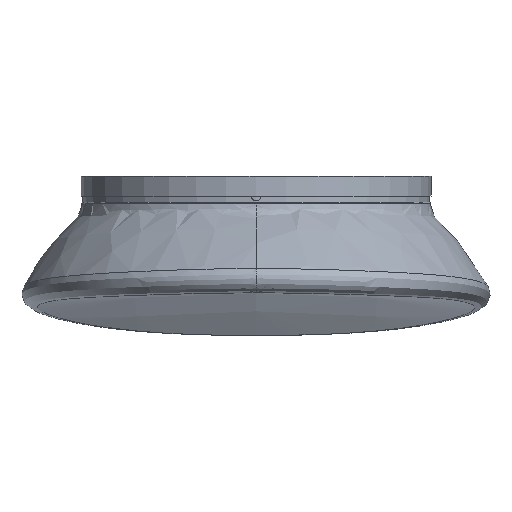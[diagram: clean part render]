
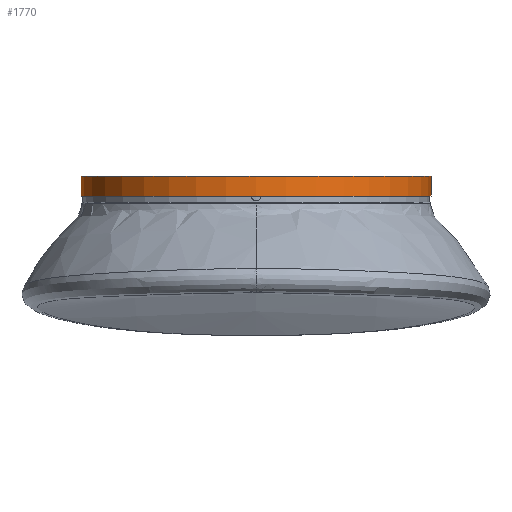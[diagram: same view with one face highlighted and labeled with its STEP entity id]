
A CAD part, left-side view. The second image highlights one B-rep face of the part: STEP entity #1770.
In plain terms, the highlighted cylindrical face has radius 193.5 mm (diameter 387 mm), a full revolution.
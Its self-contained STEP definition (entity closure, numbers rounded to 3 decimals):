
#1770 = ADVANCED_FACE( '', ( #3919, #3920 ), #3921, .T. );
#3919 = FACE_OUTER_BOUND( '', #22258, .T. );
#3920 = FACE_OUTER_BOUND( '', #22259, .T. );
#3921 = CYLINDRICAL_SURFACE( '', #22260, 193.5 );
#22258 = EDGE_LOOP( '', ( #43292 ) );
#22259 = EDGE_LOOP( '', ( #43293 ) );
#22260 = AXIS2_PLACEMENT_3D( '', #43294, #43295, #43296 );
#43292 = ORIENTED_EDGE( '', *, *, #47986, .T. );
#43293 = ORIENTED_EDGE( '', *, *, #48723, .T. );
#43294 = CARTESIAN_POINT( '', ( 0., 0., 15. ) );
#43295 = DIRECTION( '', ( 0., 0., 1. ) );
#43296 = DIRECTION( '', ( -1., 0., 0. ) );
#47986 = EDGE_CURVE( '', #50539, #50539, #50540, .T. );
#48723 = EDGE_CURVE( '', #51699, #51699, #51700, .F. );
#50539 = VERTEX_POINT( '', #56065 );
#50540 = CIRCLE( '', #56066, 193.5 );
#51699 = VERTEX_POINT( '', #61639 );
#51700 = CIRCLE( '', #61640, 193.5 );
#56065 = CARTESIAN_POINT( '', ( -193.5, 0., 15. ) );
#56066 = AXIS2_PLACEMENT_3D( '', #70308, #70309, #70310 );
#61639 = CARTESIAN_POINT( '', ( -193.5, 0., -7. ) );
#61640 = AXIS2_PLACEMENT_3D( '', #71417, #71418, #71419 );
#70308 = CARTESIAN_POINT( '', ( 0., 0., 15. ) );
#70309 = DIRECTION( '', ( 0., 0., -1. ) );
#70310 = DIRECTION( '', ( -1., 0., 0. ) );
#71417 = CARTESIAN_POINT( '', ( 0., 0., -7. ) );
#71418 = DIRECTION( '', ( 0., 0., -1. ) );
#71419 = DIRECTION( '', ( -1., 0., 0. ) );
